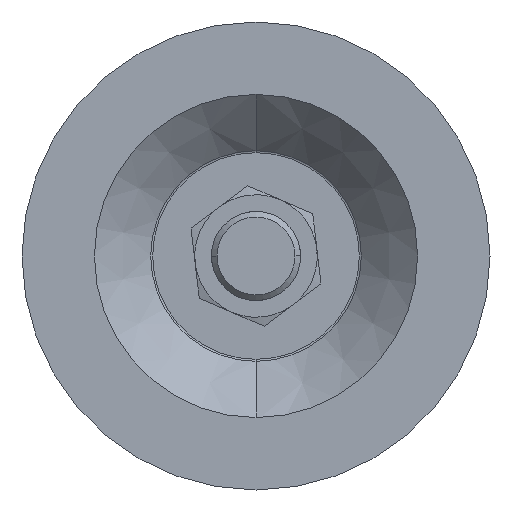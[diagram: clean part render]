
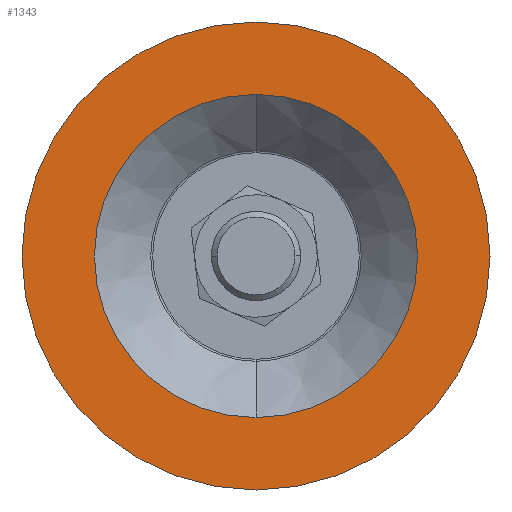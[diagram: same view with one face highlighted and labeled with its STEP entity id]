
A CAD part, front view. The second image highlights one B-rep face of the part: STEP entity #1343.
In plain terms, the highlighted planar face has unit normal (0, -1, 0).
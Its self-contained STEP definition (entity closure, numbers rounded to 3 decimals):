
#10 = VERTEX_POINT ( 'NONE', #8914 ) ;
#293 = DIRECTION ( 'NONE',  ( 0., -1., 0. ) ) ;
#590 = CIRCLE ( 'NONE', #4019, 42. ) ;
#813 = ORIENTED_EDGE ( 'NONE', *, *, #4442, .T. ) ;
#828 = FACE_BOUND ( 'NONE', #8725, .T. ) ;
#851 = CARTESIAN_POINT ( 'NONE',  ( 42., -3.2, 0. ) ) ;
#952 = AXIS2_PLACEMENT_3D ( 'NONE', #851, #2272, #7722 ) ;
#1343 = ADVANCED_FACE ( 'NONE', ( #2641, #828 ), #5711, .T. ) ;
#2040 = CARTESIAN_POINT ( 'NONE',  ( 0., -3.2, -29. ) ) ;
#2272 = DIRECTION ( 'NONE',  ( 0., -1., 0. ) ) ;
#2341 = VERTEX_POINT ( 'NONE', #2040 ) ;
#2370 = CARTESIAN_POINT ( 'NONE',  ( 0., -3.2, 0. ) ) ;
#2403 = DIRECTION ( 'NONE',  ( 0., -1., 0. ) ) ;
#2527 = CIRCLE ( 'NONE', #3686, 29. ) ;
#2641 = FACE_OUTER_BOUND ( 'NONE', #7747, .T. ) ;
#2759 = AXIS2_PLACEMENT_3D ( 'NONE', #7984, #4587, #3795 ) ;
#2819 = ORIENTED_EDGE ( 'NONE', *, *, #6544, .F. ) ;
#3244 = VERTEX_POINT ( 'NONE', #6259 ) ;
#3686 = AXIS2_PLACEMENT_3D ( 'NONE', #4457, #2403, #6493 ) ;
#3795 = DIRECTION ( 'NONE',  ( 0., 0., -1. ) ) ;
#4019 = AXIS2_PLACEMENT_3D ( 'NONE', #5934, #7945, #6579 ) ;
#4160 = AXIS2_PLACEMENT_3D ( 'NONE', #2370, #293, #7187 ) ;
#4435 = EDGE_CURVE ( 'NONE', #3244, #2341, #2527, .T. ) ;
#4442 = EDGE_CURVE ( 'NONE', #6345, #10, #7778, .T. ) ;
#4457 = CARTESIAN_POINT ( 'NONE',  ( 0., -3.2, 0. ) ) ;
#4496 = ORIENTED_EDGE ( 'NONE', *, *, #4435, .F. ) ;
#4587 = DIRECTION ( 'NONE',  ( 0., -1., 0. ) ) ;
#5046 = ORIENTED_EDGE ( 'NONE', *, *, #7607, .T. ) ;
#5711 = PLANE ( 'NONE',  #952 ) ;
#5934 = CARTESIAN_POINT ( 'NONE',  ( 0., -3.2, 0. ) ) ;
#6210 = CARTESIAN_POINT ( 'NONE',  ( 0., -3.2, -42. ) ) ;
#6259 = CARTESIAN_POINT ( 'NONE',  ( 0., -3.2, 29. ) ) ;
#6345 = VERTEX_POINT ( 'NONE', #6210 ) ;
#6493 = DIRECTION ( 'NONE',  ( 0., 0., -1. ) ) ;
#6544 = EDGE_CURVE ( 'NONE', #2341, #3244, #8288, .T. ) ;
#6579 = DIRECTION ( 'NONE',  ( 0., 0., -1. ) ) ;
#7187 = DIRECTION ( 'NONE',  ( 0., 0., -1. ) ) ;
#7607 = EDGE_CURVE ( 'NONE', #10, #6345, #590, .T. ) ;
#7722 = DIRECTION ( 'NONE',  ( 0., 0., -1. ) ) ;
#7747 = EDGE_LOOP ( 'NONE', ( #813, #5046 ) ) ;
#7778 = CIRCLE ( 'NONE', #4160, 42. ) ;
#7945 = DIRECTION ( 'NONE',  ( 0., -1., 0. ) ) ;
#7984 = CARTESIAN_POINT ( 'NONE',  ( 0., -3.2, 0. ) ) ;
#8288 = CIRCLE ( 'NONE', #2759, 29. ) ;
#8725 = EDGE_LOOP ( 'NONE', ( #2819, #4496 ) ) ;
#8914 = CARTESIAN_POINT ( 'NONE',  ( 0., -3.2, 42. ) ) ;
